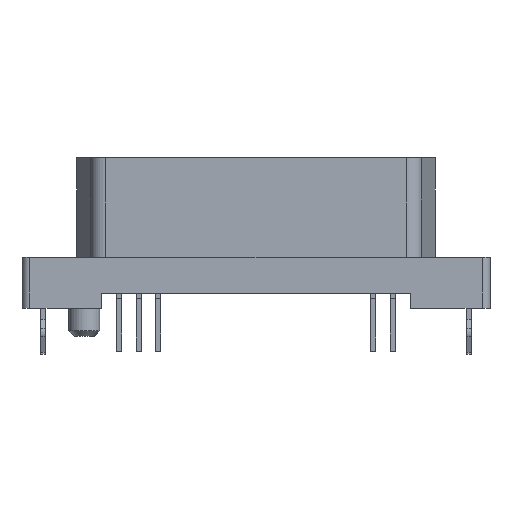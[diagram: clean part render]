
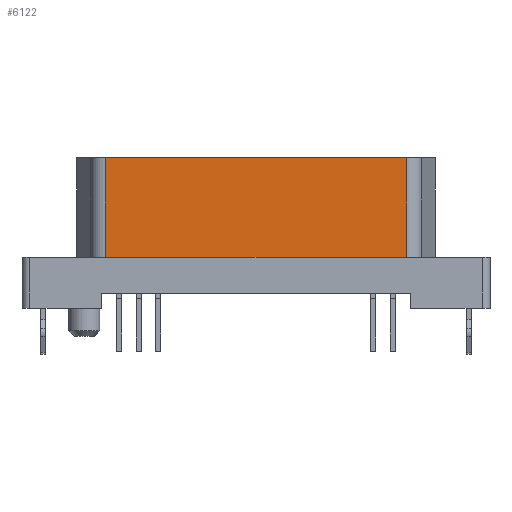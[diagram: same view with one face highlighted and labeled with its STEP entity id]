
A CAD part, top view. The second image highlights one B-rep face of the part: STEP entity #6122.
In plain terms, the highlighted planar face has unit normal (0, 0, 1).
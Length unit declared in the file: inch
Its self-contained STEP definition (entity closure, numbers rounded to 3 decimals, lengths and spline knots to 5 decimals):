
#49=DIRECTION('',(1.,0.,0.));
#50=VECTOR('',#49,0.77194);
#51=CARTESIAN_POINT('',(-0.38597,0.065,0.1025));
#52=LINE('',#51,#50);
#153=DIRECTION('',(0.,1.,0.));
#154=VECTOR('',#153,0.256);
#155=CARTESIAN_POINT('',(-0.38597,0.065,0.1025));
#156=LINE('',#155,#154);
#181=DIRECTION('',(0.,1.,0.));
#182=VECTOR('',#181,0.256);
#183=CARTESIAN_POINT('',(0.38597,0.065,0.1025));
#184=LINE('',#183,#182);
#185=DIRECTION('',(1.,0.,0.));
#186=VECTOR('',#185,0.77194);
#187=CARTESIAN_POINT('',(-0.38597,0.321,0.1025));
#188=LINE('',#187,#186);
#4559=CARTESIAN_POINT('',(-0.38597,0.321,0.1025));
#4560=CARTESIAN_POINT('',(0.38597,0.321,0.1025));
#4561=VERTEX_POINT('',#4559);
#4562=VERTEX_POINT('',#4560);
#4575=CARTESIAN_POINT('',(-0.38597,0.065,0.1025));
#4576=CARTESIAN_POINT('',(0.38597,0.065,0.1025));
#4577=VERTEX_POINT('',#4575);
#4578=VERTEX_POINT('',#4576);
#6108=CARTESIAN_POINT('',(-0.38597,0.065,0.1025));
#6109=DIRECTION('',(0.,0.,1.));
#6110=DIRECTION('',(1.,0.,0.));
#6111=AXIS2_PLACEMENT_3D('',#6108,#6109,#6110);
#6112=PLANE('',#6111);
#6113=ORIENTED_EDGE('',*,*,#6089,.F.);
#6115=ORIENTED_EDGE('',*,*,#6114,.T.);
#6117=ORIENTED_EDGE('',*,*,#6116,.T.);
#6119=ORIENTED_EDGE('',*,*,#6118,.F.);
#6120=EDGE_LOOP('',(#6113,#6115,#6117,#6119));
#6121=FACE_OUTER_BOUND('',#6120,.F.);
#6122=ADVANCED_FACE('',(#6121),#6112,.T.);
#6089=EDGE_CURVE('',#4577,#4578,#52,.T.);
#6114=EDGE_CURVE('',#4577,#4561,#156,.T.);
#6116=EDGE_CURVE('',#4561,#4562,#188,.T.);
#6118=EDGE_CURVE('',#4578,#4562,#184,.T.);
